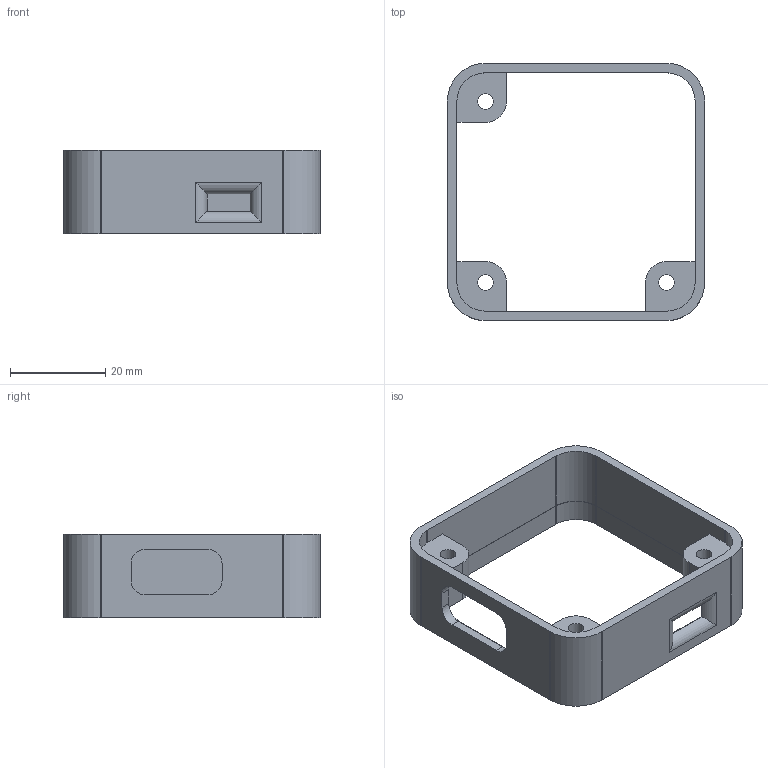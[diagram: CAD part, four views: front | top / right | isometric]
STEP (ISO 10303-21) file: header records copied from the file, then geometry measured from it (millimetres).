
FILE_DESCRIPTION(/* description */ ('STEP AP242 Edition 2','CAx-IF Rec.Pracs.---Representation and Presentation of Product Manufacturing Information (PMI)---4.0---2014-10-13','CAx-IF Rec.Pracs.---3D Tessellated Geometry---0.4---2014-09-14','2;1','CAx-IF Rec.Pracs.---User Defined Attributes---1.5---2016-08-15'),/* implementation_level */ '2;1');
FILE_NAME(/* name */ 'v2_assembly - v2_case',/* time_stamp */ '2026-05-19T16:26:09Z',/* author */ (''),/* organization */ (''),/* preprocessor_version */ 'ST-DEVELOPER v20',/* originating_system */ 'ONSHAPE BY PTC INC, 1.215',/* authorisation */ ' ');
FILE_SCHEMA (('AP242_MANAGED_MODEL_BASED_3D_ENGINEERING_MIM_LF { 1 0 10303 442 3 1 4 }'));
Length unit declared in the file: metre
Products named in the file (1): v2_case
Bounding box: 54 x 54 x 17.59 mm (x, y, z)
Volume: 8728.3 mm3; surface area: 8294.2 mm2
Topology: 1 solids, 1 shells, 96 faces, 281 edges, 191 vertices
Faces by surface type: plane 64, cylinder 32
Full cylindrical faces by diameter (mm): 3.3 x3, 4.8 x3
Entity records: 3182 total; most frequent: CARTESIAN_POINT 557, ORIENTED_EDGE 544, DIRECTION 526, EDGE_CURVE 272, LINE 212, VECTOR 212, VERTEX_POINT 188, AXIS2_PLACEMENT_3D 157
